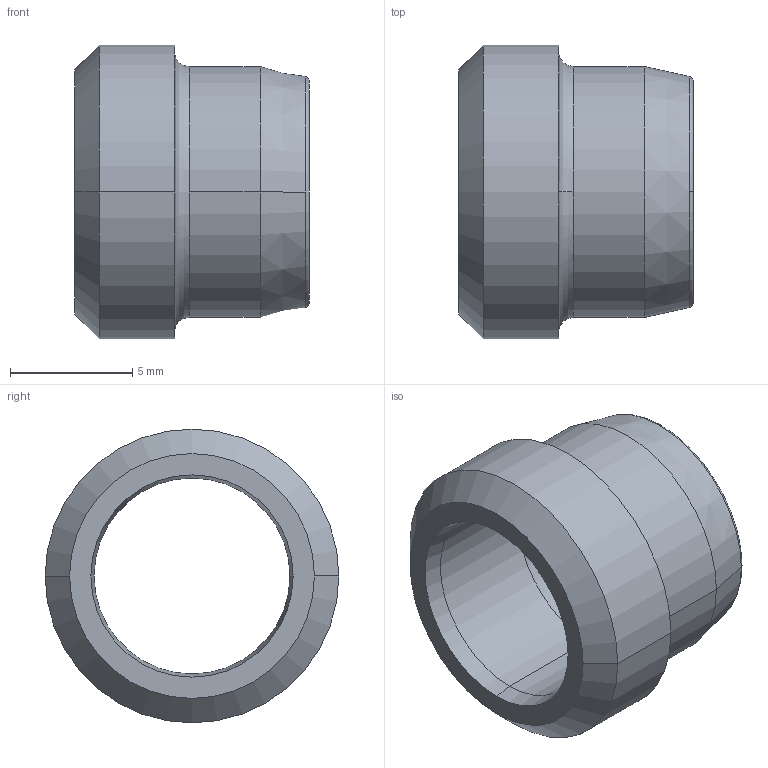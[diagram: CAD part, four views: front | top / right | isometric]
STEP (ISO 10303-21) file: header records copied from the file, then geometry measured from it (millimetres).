
FILE_DESCRIPTION((''),'2;1');
FILE_NAME('100105.stp','2006-03-06T15:07:45',('Dario Falcomer'),('CAST S.p.A.'),'AutoCAD STEP 2000i','AutoCAD 2000i',', , ');
FILE_SCHEMA(('CONFIG_CONTROL_DESIGN'));
Length unit declared in the file: millimetre
Products named in the file (2): 100105.0; 1001ESTERNO#0
Assembly tree (1 placements, depth 2):
  100105.0
    1001ESTERNO#0
Bounding box: 9.57 x 12 x 12 mm (x, y, z)
Volume: 382.9 mm3; surface area: 660.1 mm2
Topology: 1 solids, 1 shells, 28 faces, 67 edges, 43 vertices
Faces by surface type: bspline 8, cone 8, cylinder 6, plane 4, torus 2
Entity records: 1241 total; most frequent: CARTESIAN_POINT 456, DIRECTION 164, ORIENTED_EDGE 134, AXIS2_PLACEMENT_3D 75, EDGE_CURVE 67, CIRCLE 53, VERTEX_POINT 43, EDGE_LOOP 32
